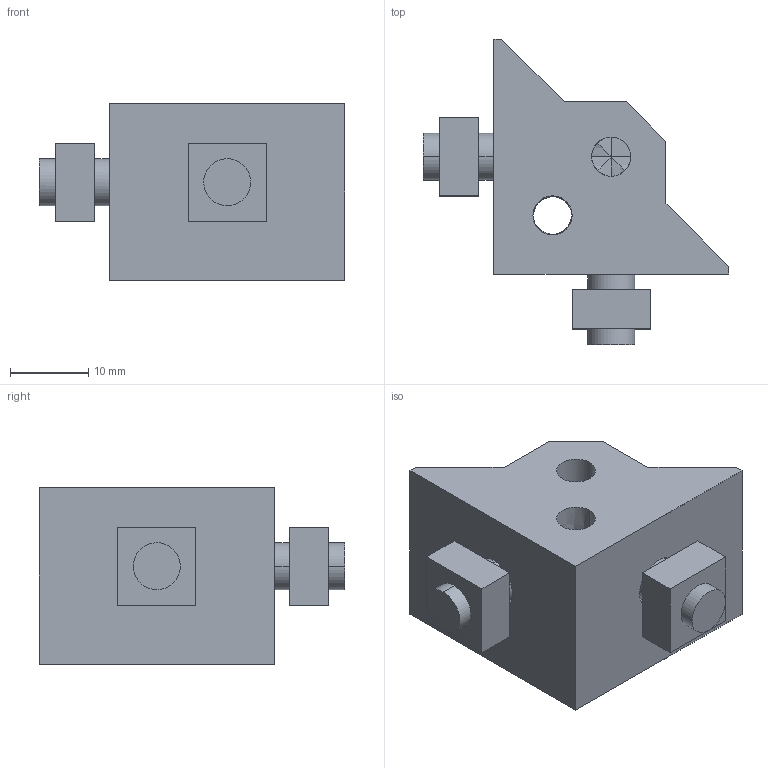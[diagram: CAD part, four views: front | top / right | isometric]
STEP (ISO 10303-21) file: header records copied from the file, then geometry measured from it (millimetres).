
FILE_DESCRIPTION(/* description */ (''),/* implementation_level */ '2;1');
FILE_NAME(/* name */ 'ABLB-3025-6-C5',/* time_stamp */ '2012-02-02T14:30:38+09:00',/* author */ (''),/* organization */ (''),/* preprocessor_version */ 'ST-DEVELOPER v10',/* originating_system */ '',/* authorisation */ '');
FILE_SCHEMA (('CONFIG_CONTROL_DESIGN'));
Length unit declared in the file: millimetre
Products named in the file (1): 1
Bounding box: 39 x 39 x 22.5 mm (x, y, z)
Volume: 11308.9 mm3; surface area: 6582.7 mm2
Topology: 5 solids, 5 shells, 60 faces, 146 edges, 96 vertices
Faces by surface type: plane 34, bspline 26
Entity records: 2444 total; most frequent: CARTESIAN_POINT 1395, ORIENTED_EDGE 292, EDGE_CURVE 146, B_SPLINE_CURVE_WITH_KNOTS 101, VERTEX_POINT 96, EDGE_LOOP 76, ADVANCED_FACE 60, FACE_OUTER_BOUND 60
